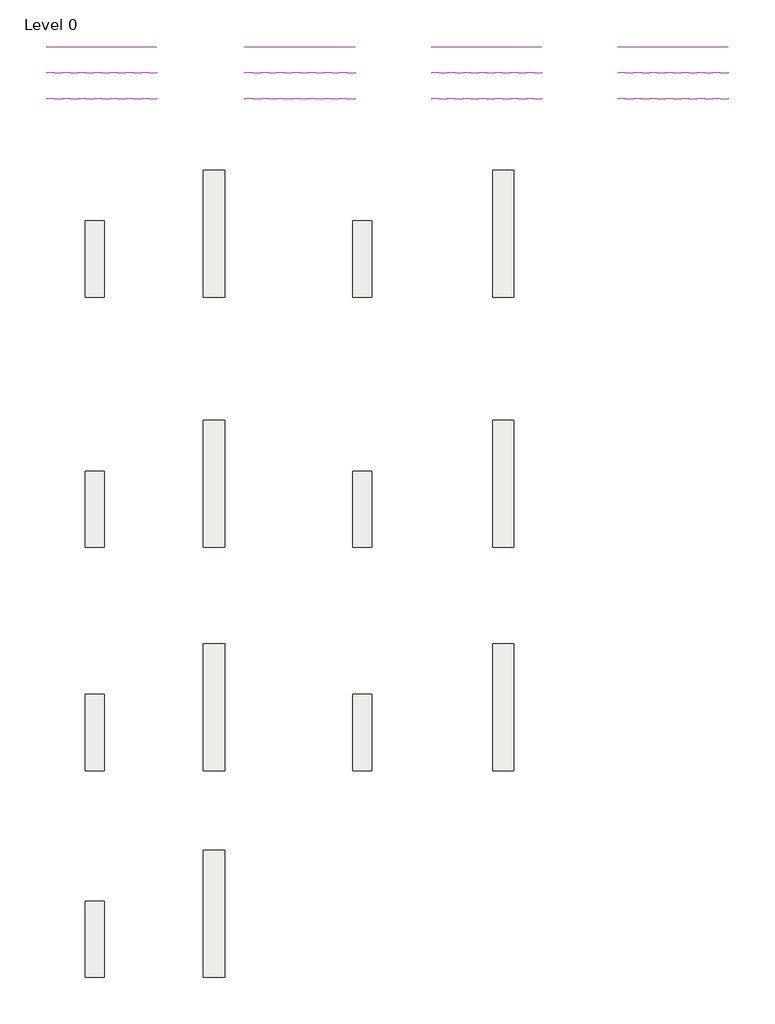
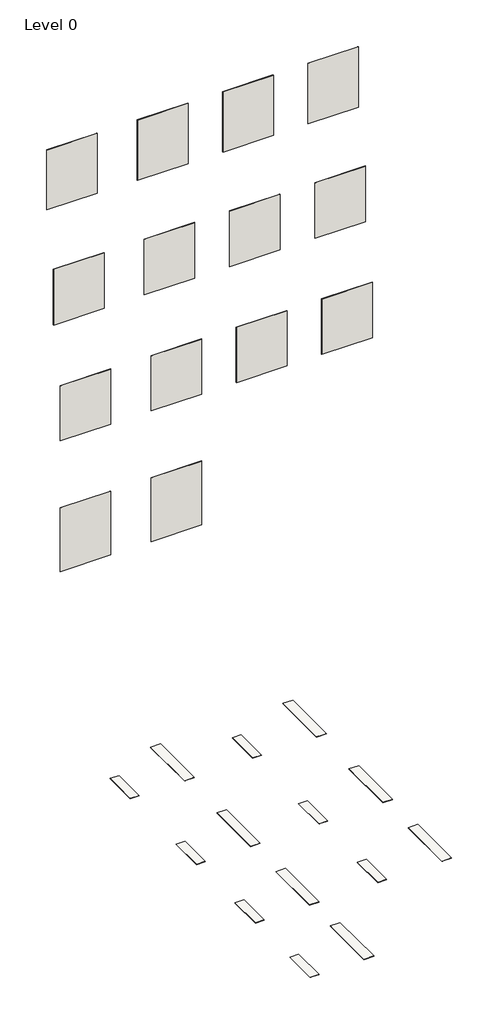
# One storey: 14 slabs, 14 walls.
"""IFC4 building model written with IfcOpenShell, lengths in millimetres."""

from ifc_helpers import new_model, si_unit, frame, origin, place, context, project, spatial, polyline, outline, extrude, element, save

model = new_model("IFC4")

# Units and contexts
model_context = context("Model", 3, world=origin())
ifc_project = project(units=[si_unit("LENGTHUNIT", "METRE", prefix="MILLI")], contexts=[model_context])

# Site, building, storey
site = spatial("IfcSite", under=ifc_project)
building = spatial("IfcBuilding", under=site)
storey = spatial("IfcBuildingStorey", under=building, Name="Level 0", Elevation=0.0)

# Slabs
placement = place(None, origin())
element("IfcSlab", 1, ObjectType="Floor_Tiles_Refin-Deck-Blaze-22.5x90 LZ22", at=placement, inside=storey, context=model_context, shape_type="SweptSolid", body=[
    extrude(outline(polyline([(6599.3752062, 6089.4623743), (6599.3752062, 5189.4623743), (6374.3752062, 5189.4623743), (6374.3752062, 6089.4623743), (6599.3752062, 6089.4623743)])), frame((0.0, 0.0, -10.0), z_axis=(0.0, 0.0, 1.0), x_axis=(1.0, 0.0, 0.0)), (0.0, 0.0, 1.0), 10.0),
])
element("IfcSlab", 2, ObjectType="Floor_Tiles_Refin-Deck-Blaze-25x150 LX84", at=placement, inside=storey, context=model_context, shape_type="SweptSolid", body=[
    extrude(outline(polyline([(8017.3924055, 6688.4192064), (8017.3924055, 5188.4192064), (7767.3924055, 5188.4192064), (7767.3924055, 6688.4192064), (8017.3924055, 6688.4192064)])), frame((0.0, 0.0, -10.0), z_axis=(0.0, 0.0, 1.0), x_axis=(1.0, 0.0, 0.0)), (0.0, 0.0, 1.0), 10.0),
])
element("IfcSlab", 3, ObjectType="Floor_Tiles_Refin-Deck-Bright-22.5x90 LZ23", at=placement, inside=storey, context=model_context, shape_type="SweptSolid", body=[
    extrude(outline(polyline([(9752.1861419, 6089.4623743), (9752.1861419, 5189.4623743), (9527.1861419, 5189.4623743), (9527.1861419, 6089.4623743), (9752.1861419, 6089.4623743)])), frame((0.0, 0.0, -10.0), z_axis=(0.0, 0.0, 1.0), x_axis=(1.0, 0.0, 0.0)), (0.0, 0.0, 1.0), 10.0),
])
element("IfcSlab", 4, ObjectType="Floor_Tiles_Refin-Deck-Bright-25x150 LX85", at=placement, inside=storey, context=model_context, shape_type="SweptSolid", body=[
    extrude(outline(polyline([(11427.3924055, 6688.4192064), (11427.3924055, 5188.4192064), (11177.3924055, 5188.4192064), (11177.3924055, 6688.4192064), (11427.3924055, 6688.4192064)])), frame((0.0, 0.0, -10.0), z_axis=(0.0, 0.0, 1.0), x_axis=(1.0, 0.0, 0.0)), (0.0, 0.0, 1.0), 10.0),
])
element("IfcSlab", 5, ObjectType="Floor_Tiles_Refin-Deck-Dawn-22.5x90 LZ24", at=placement, inside=storey, context=model_context, shape_type="SweptSolid", body=[
    extrude(outline(polyline([(6599.3752062, 3139.4623743), (6599.3752062, 2239.4623743), (6374.3752062, 2239.4623743), (6374.3752062, 3139.4623743), (6599.3752062, 3139.4623743)])), frame((0.0, 0.0, -10.0), z_axis=(0.0, 0.0, 1.0), x_axis=(1.0, 0.0, 0.0)), (0.0, 0.0, 1.0), 10.0),
])
element("IfcSlab", 6, ObjectType="Floor_Tiles_Refin-Deck-Dawn-25x150 LX86", at=placement, inside=storey, context=model_context, shape_type="SweptSolid", body=[
    extrude(outline(polyline([(8017.3924055, 3739.4623743), (8017.3924055, 2239.4623743), (7767.3924055, 2239.4623743), (7767.3924055, 3739.4623743), (8017.3924055, 3739.4623743)])), frame((0.0, 0.0, -10.0), z_axis=(0.0, 0.0, 1.0), x_axis=(1.0, 0.0, 0.0)), (0.0, 0.0, 1.0), 10.0),
])
element("IfcSlab", 7, ObjectType="Floor_Tiles_Refin-Deck-Day-22.5x90 LZ25", at=placement, inside=storey, context=model_context, shape_type="SweptSolid", body=[
    extrude(outline(polyline([(9752.1861419, 3139.4623743), (9752.1861419, 2239.4623743), (9527.1861419, 2239.4623743), (9527.1861419, 3139.4623743), (9752.1861419, 3139.4623743)])), frame((0.0, 0.0, -10.0), z_axis=(0.0, 0.0, 1.0), x_axis=(1.0, 0.0, 0.0)), (0.0, 0.0, 1.0), 10.0),
])
element("IfcSlab", 8, ObjectType="Floor_Tiles_Refin-Deck-Day-25x150 LX87", at=placement, inside=storey, context=model_context, shape_type="SweptSolid", body=[
    extrude(outline(polyline([(11427.1861419, 3739.4623743), (11427.1861419, 2239.4623743), (11177.1861419, 2239.4623743), (11177.1861419, 3739.4623743), (11427.1861419, 3739.4623743)])), frame((0.0, 0.0, -10.0), z_axis=(0.0, 0.0, 1.0), x_axis=(1.0, 0.0, 0.0)), (0.0, 0.0, 1.0), 10.0),
])
element("IfcSlab", 9, ObjectType="Floor_Tiles_Refin-Deck-Dusk-22.5x90 LZ26", at=placement, inside=storey, context=model_context, shape_type="SweptSolid", body=[
    extrude(outline(polyline([(6599.3752062, 504.4623743), (6599.3752062, -395.5376257), (6374.3752062, -395.5376257), (6374.3752062, 504.4623743), (6599.3752062, 504.4623743)])), frame((0.0, 0.0, -10.0), z_axis=(0.0, 0.0, 1.0), x_axis=(1.0, 0.0, 0.0)), (0.0, 0.0, 1.0), 10.0),
])
element("IfcSlab", 10, ObjectType="Floor_Tiles_Refin-Deck-Dusk-25x150 LX88", at=placement, inside=storey, context=model_context, shape_type="SweptSolid", body=[
    extrude(outline(polyline([(8017.3924055, 1103.4367235), (8017.3924055, -396.5632765), (7767.3924055, -396.5632765), (7767.3924055, 1103.4367235), (8017.3924055, 1103.4367235)])), frame((0.0, 0.0, -10.0), z_axis=(0.0, 0.0, 1.0), x_axis=(1.0, 0.0, 0.0)), (0.0, 0.0, 1.0), 10.0),
])
element("IfcSlab", 11, ObjectType="Floor_Tiles_Refin-Deck-Flare-22.5x90 LZ27", at=placement, inside=storey, context=model_context, shape_type="SweptSolid", body=[
    extrude(outline(polyline([(9752.1861419, 504.4623743), (9752.1861419, -395.5376257), (9527.1861419, -395.5376257), (9527.1861419, 504.4623743), (9752.1861419, 504.4623743)])), frame((0.0, 0.0, -10.0), z_axis=(0.0, 0.0, 1.0), x_axis=(1.0, 0.0, 0.0)), (0.0, 0.0, 1.0), 10.0),
])
element("IfcSlab", 12, ObjectType="Floor_Tiles_Refin-Deck-Flare-25x150 LX89", at=placement, inside=storey, context=model_context, shape_type="SweptSolid", body=[
    extrude(outline(polyline([(11427.1861419, 1103.4367235), (11427.1861419, -396.5632765), (11177.1861419, -396.5632765), (11177.1861419, 1103.4367235), (11427.1861419, 1103.4367235)])), frame((0.0, 0.0, -10.0), z_axis=(0.0, 0.0, 1.0), x_axis=(1.0, 0.0, 0.0)), (0.0, 0.0, 1.0), 10.0),
])
element("IfcSlab", 13, ObjectType="Floor_Tiles_Refin-Deck-Night-22.5x90 LJ72", at=placement, inside=storey, context=model_context, shape_type="SweptSolid", body=[
    extrude(outline(polyline([(6599.3752062, -1932.5889273), (6599.3752062, -2832.5889273), (6374.3752062, -2832.5889273), (6374.3752062, -1932.5889273), (6599.3752062, -1932.5889273)])), frame((0.0, 0.0, -10.0), z_axis=(0.0, 0.0, 1.0), x_axis=(1.0, 0.0, 0.0)), (0.0, 0.0, 1.0), 10.0),
])
element("IfcSlab", 14, ObjectType="Floor_Tiles_Refin-Deck-Night-25x150 LJ71", at=placement, inside=storey, context=model_context, shape_type="SweptSolid", body=[
    extrude(outline(polyline([(8017.3924055, -1332.5889273), (8017.3924055, -2832.5889273), (7767.3924055, -2832.5889273), (7767.3924055, -1332.5889273), (8017.3924055, -1332.5889273)])), frame((0.0, 0.0, -10.0), z_axis=(0.0, 0.0, 1.0), x_axis=(1.0, 0.0, 0.0)), (0.0, 0.0, 1.0), 10.0),
])

# Walls
element("IfcWall", 15, ObjectType="Wall_Tiles_Refin-Deck-Blaze-25x150 LX84", at=placement, inside=storey, context=model_context, shape_type="SweptSolid", body=[
    extrude(outline(polyline([(9557.3752062, 8132.3838631), (8257.3752062, 8132.3838631), (8257.3752062, 8142.3838631), (9557.3752062, 8142.3838631), (9557.3752062, 8132.3838631)])), frame((0.0, 0.0, 14387.6770443), z_axis=(0.0, 0.0, 1.0), x_axis=(1.0, 0.0, 0.0)), (0.0, 0.0, 1.0), 1641.7417352),
])
element("IfcWall", 16, ObjectType="Wall_Tiles_Refin-Deck-Bright-22.5x90 LZ23", at=placement, inside=storey, context=model_context, shape_type="SweptSolid", body=[
    extrude(outline(polyline([(11757.3752062, 8132.3838631), (10457.3752062, 8132.3838631), (10457.3752062, 8142.3838631), (11757.3752062, 8142.3838631), (11757.3752062, 8132.3838631)])), frame((0.0, 0.0, 14387.6770443), z_axis=(0.0, 0.0, 1.0), x_axis=(1.0, 0.0, 0.0)), (0.0, 0.0, 1.0), 1641.7417352),
])
element("IfcWall", 17, ObjectType="Wall_Tiles_Refin-Deck-Blaze-22.5x90 LZ22", at=placement, inside=storey, context=model_context, shape_type="SweptSolid", body=[
    extrude(outline(polyline([(7217.3752062, 8132.3838631), (5917.3752062, 8132.3838631), (5917.3752062, 8142.3838631), (7217.3752062, 8142.3838631), (7217.3752062, 8132.3838631)])), frame((0.0, 0.0, 14403.7267346), z_axis=(0.0, 0.0, 1.0), x_axis=(1.0, 0.0, 0.0)), (0.0, 0.0, 1.0), 1625.692045),
])
element("IfcWall", 18, ObjectType="Wall_Tiles_Refin-Deck-Dawn-22.5x90 LZ24", at=placement, inside=storey, context=model_context, shape_type="SweptSolid", body=[
    extrude(outline(polyline([(7217.3752062, 7827.3838631), (5917.3752062, 7827.3838631), (5917.3752062, 7837.3838631), (7217.3752062, 7837.3838631), (7217.3752062, 7827.3838631)])), frame((0.0, 0.0, 11452.5436262), z_axis=(0.0, 0.0, 1.0), x_axis=(1.0, 0.0, 0.0)), (0.0, 0.0, 1.0), 1513.1985566),
])
element("IfcWall", 19, ObjectType="Wall_Tiles_Refin-Deck-Dawn-25x150 LX86", at=placement, inside=storey, context=model_context, shape_type="SweptSolid", body=[
    extrude(outline(polyline([(9557.3752062, 7827.3838631), (8257.3752062, 7827.3838631), (8257.3752062, 7837.3838631), (9557.3752062, 7837.3838631), (9557.3752062, 7827.3838631)])), frame((0.0, 0.0, 11452.5436262), z_axis=(0.0, 0.0, 1.0), x_axis=(1.0, 0.0, 0.0)), (0.0, 0.0, 1.0), 1513.1985566),
])
element("IfcWall", 20, ObjectType="Wall_Tiles_Refin-Deck-Day-22.5x90 LZ25", at=placement, inside=storey, context=model_context, shape_type="SweptSolid", body=[
    extrude(outline(polyline([(11757.3752062, 7827.3838631), (10457.3752062, 7827.3838631), (10457.3752062, 7837.3838631), (11757.3752062, 7837.3838631), (11757.3752062, 7827.3838631)])), frame((0.0, 0.0, 11452.5436262), z_axis=(0.0, 0.0, 1.0), x_axis=(1.0, 0.0, 0.0)), (0.0, 0.0, 1.0), 1513.1985566),
])
element("IfcWall", 21, ObjectType="Wall_Tiles_Refin-Deck-Dusk-22.5x90 LZ26", at=placement, inside=storey, context=model_context, shape_type="SweptSolid", body=[
    extrude(outline(polyline([(7217.3752062, 7522.3838631), (5917.3752062, 7522.3838631), (5917.3752062, 7532.3838631), (7217.3752062, 7532.3838631), (7217.3752062, 7522.3838631)])), frame((0.0, 0.0, 8479.1027214), z_axis=(0.0, 0.0, 1.0), x_axis=(1.0, 0.0, 0.0)), (0.0, 0.0, 1.0), 1502.5740159),
])
element("IfcWall", 22, ObjectType="Wall_Tiles_Refin-Deck-Dusk-25x150 LX88", at=placement, inside=storey, context=model_context, shape_type="SweptSolid", body=[
    extrude(outline(polyline([(9557.3752062, 7522.3838631), (8257.3752062, 7522.3838631), (8257.3752062, 7532.3838631), (9557.3752062, 7532.3838631), (9557.3752062, 7522.3838631)])), frame((0.0, 0.0, 8479.1027214), z_axis=(0.0, 0.0, 1.0), x_axis=(1.0, 0.0, 0.0)), (0.0, 0.0, 1.0), 1502.5740159),
])
element("IfcWall", 23, ObjectType="Wall_Tiles_Refin-Deck-Flare-22.5x90 LZ27", at=placement, inside=storey, context=model_context, shape_type="SweptSolid", body=[
    extrude(outline(polyline([(11757.3752062, 7522.3838631), (10457.3752062, 7522.3838631), (10457.3752062, 7532.3838631), (11757.3752062, 7532.3838631), (11757.3752062, 7522.3838631)])), frame((0.0, 0.0, 8479.1027214), z_axis=(0.0, 0.0, 1.0), x_axis=(1.0, 0.0, 0.0)), (0.0, 0.0, 1.0), 1502.5740159),
])
element("IfcWall", 24, ObjectType="Wall_Tiles_Refin-Deck-Bright-25x150 LX85", at=placement, inside=storey, context=model_context, shape_type="SweptSolid", body=[
    extrude(outline(polyline([(13957.3752062, 8132.3838631), (12657.3752062, 8132.3838631), (12657.3752062, 8142.3838631), (13957.3752062, 8142.3838631), (13957.3752062, 8132.3838631)])), frame((0.0, 0.0, 14387.6770443), z_axis=(0.0, 0.0, 1.0), x_axis=(1.0, 0.0, 0.0)), (0.0, 0.0, 1.0), 1641.7417352),
])
element("IfcWall", 25, ObjectType="Wall_Tiles_Refin-Deck-Day-25x150 LX87", at=placement, inside=storey, context=model_context, shape_type="SweptSolid", body=[
    extrude(outline(polyline([(13957.3752062, 7827.3838631), (12657.3752062, 7827.3838631), (12657.3752062, 7837.3838631), (13957.3752062, 7837.3838631), (13957.3752062, 7827.3838631)])), frame((0.0, 0.0, 11452.5436262), z_axis=(0.0, 0.0, 1.0), x_axis=(1.0, 0.0, 0.0)), (0.0, 0.0, 1.0), 1513.1985566),
])
element("IfcWall", 26, ObjectType="Wall_Tiles_Refin-Deck-Flare-25x150 LX89", at=placement, inside=storey, context=model_context, shape_type="SweptSolid", body=[
    extrude(outline(polyline([(13957.3752062, 7522.3838631), (12657.3752062, 7522.3838631), (12657.3752062, 7532.3838631), (13957.3752062, 7532.3838631), (13957.3752062, 7522.3838631)])), frame((0.0, 0.0, 8479.1027214), z_axis=(0.0, 0.0, 1.0), x_axis=(1.0, 0.0, 0.0)), (0.0, 0.0, 1.0), 1502.5740159),
])
element("IfcWall", 27, ObjectType="Wall_Tiles_Refin-Deck-Night-25x150 LJ71", at=placement, inside=storey, context=model_context, shape_type="SweptSolid", body=[
    extrude(outline(polyline([(9557.3752062, 7522.3838631), (8257.3752062, 7522.3838631), (8257.3752062, 7532.3838631), (9557.3752062, 7532.3838631), (9557.3752062, 7522.3838631)])), frame((0.0, 0.0, 4921.0785975), z_axis=(0.0, 0.0, 1.0), x_axis=(1.0, 0.0, 0.0)), (0.0, 0.0, 1.0), 1733.8430465),
])
element("IfcWall", 28, ObjectType="Wall_Tiles_Refin-Deck-Night-22.5x90 LJ72", at=placement, inside=storey, context=model_context, shape_type="SweptSolid", body=[
    extrude(outline(polyline([(7217.3752062, 7522.3838631), (5917.3752062, 7522.3838631), (5917.3752062, 7532.3838631), (7217.3752062, 7532.3838631), (7217.3752062, 7522.3838631)])), frame((0.0, 0.0, 4921.0785975), z_axis=(0.0, 0.0, 1.0), x_axis=(1.0, 0.0, 0.0)), (0.0, 0.0, 1.0), 1733.8430465),
])

save(model, "model.ifc")
